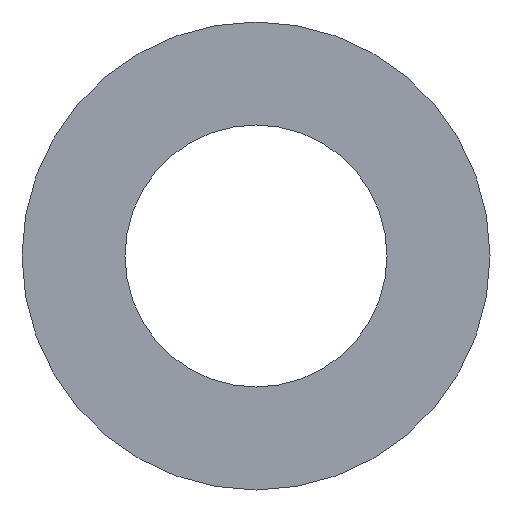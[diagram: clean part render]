
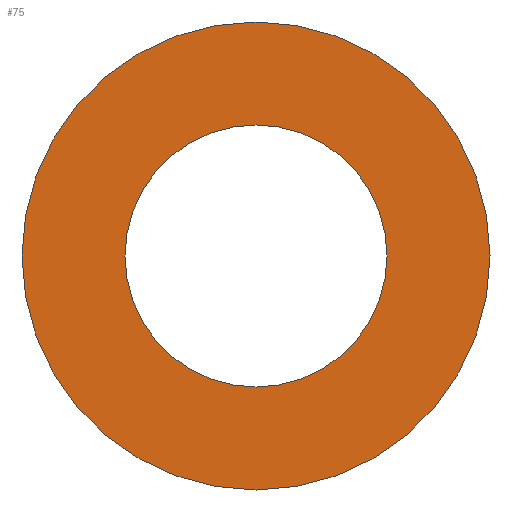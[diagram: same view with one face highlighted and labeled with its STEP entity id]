
A CAD part, front view. The second image highlights one B-rep face of the part: STEP entity #75.
In plain terms, the highlighted planar face has unit normal (0, -1, 0).
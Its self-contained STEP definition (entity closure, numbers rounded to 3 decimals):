
#6 = CARTESIAN_POINT ( 'NONE',  ( 0., -4., 0. ) ) ;
#7 = DIRECTION ( 'NONE',  ( 0., 0., -1. ) ) ;
#8 = CARTESIAN_POINT ( 'NONE',  ( 0., -4., -14. ) ) ;
#17 = EDGE_CURVE ( 'NONE', #20, #183, #53, .T. ) ;
#18 = CIRCLE ( 'NONE', #96, 14. ) ;
#20 = VERTEX_POINT ( 'NONE', #108 ) ;
#29 = EDGE_CURVE ( 'NONE', #45, #69, #224, .T. ) ;
#31 = ORIENTED_EDGE ( 'NONE', *, *, #38, .T. ) ;
#38 = EDGE_CURVE ( 'NONE', #69, #45, #18, .T. ) ;
#39 = DIRECTION ( 'NONE',  ( 0., 1., 0. ) ) ;
#40 = DIRECTION ( 'NONE',  ( 0., 0., 1. ) ) ;
#41 = AXIS2_PLACEMENT_3D ( 'NONE', #226, #205, #40 ) ;
#45 = VERTEX_POINT ( 'NONE', #58 ) ;
#53 = CIRCLE ( 'NONE', #167, 25. ) ;
#56 = CIRCLE ( 'NONE', #41, 25. ) ;
#58 = CARTESIAN_POINT ( 'NONE',  ( 0., -4., 14. ) ) ;
#63 = DIRECTION ( 'NONE',  ( 0., 0., 1. ) ) ;
#69 = VERTEX_POINT ( 'NONE', #8 ) ;
#71 = ORIENTED_EDGE ( 'NONE', *, *, #17, .F. ) ;
#75 = ADVANCED_FACE ( 'NONE', ( #80, #184 ), #86, .T. ) ;
#79 = ORIENTED_EDGE ( 'NONE', *, *, #29, .T. ) ;
#80 = FACE_BOUND ( 'NONE', #173, .T. ) ;
#86 = PLANE ( 'NONE',  #213 ) ;
#96 = AXIS2_PLACEMENT_3D ( 'NONE', #6, #153, #63 ) ;
#107 = CARTESIAN_POINT ( 'NONE',  ( 0., -4., 0. ) ) ;
#108 = CARTESIAN_POINT ( 'NONE',  ( 0., -4., 25. ) ) ;
#110 = DIRECTION ( 'NONE',  ( 0., 0., 1. ) ) ;
#138 = ORIENTED_EDGE ( 'NONE', *, *, #235, .F. ) ;
#153 = DIRECTION ( 'NONE',  ( 0., 1., 0. ) ) ;
#156 = DIRECTION ( 'NONE',  ( 0., -1., 0. ) ) ;
#167 = AXIS2_PLACEMENT_3D ( 'NONE', #107, #168, #238 ) ;
#168 = DIRECTION ( 'NONE',  ( 0., 1., 0. ) ) ;
#173 = EDGE_LOOP ( 'NONE', ( #79, #31 ) ) ;
#176 = CARTESIAN_POINT ( 'NONE',  ( 0., -4., -25. ) ) ;
#181 = EDGE_LOOP ( 'NONE', ( #71, #138 ) ) ;
#183 = VERTEX_POINT ( 'NONE', #176 ) ;
#184 = FACE_OUTER_BOUND ( 'NONE', #181, .T. ) ;
#193 = CARTESIAN_POINT ( 'NONE',  ( 0., -4., 25. ) ) ;
#204 = CARTESIAN_POINT ( 'NONE',  ( 0., -4., 0. ) ) ;
#205 = DIRECTION ( 'NONE',  ( 0., 1., 0. ) ) ;
#213 = AXIS2_PLACEMENT_3D ( 'NONE', #193, #156, #7 ) ;
#215 = AXIS2_PLACEMENT_3D ( 'NONE', #204, #39, #110 ) ;
#224 = CIRCLE ( 'NONE', #215, 14. ) ;
#226 = CARTESIAN_POINT ( 'NONE',  ( 0., -4., 0. ) ) ;
#235 = EDGE_CURVE ( 'NONE', #183, #20, #56, .T. ) ;
#238 = DIRECTION ( 'NONE',  ( 0., 0., 1. ) ) ;
